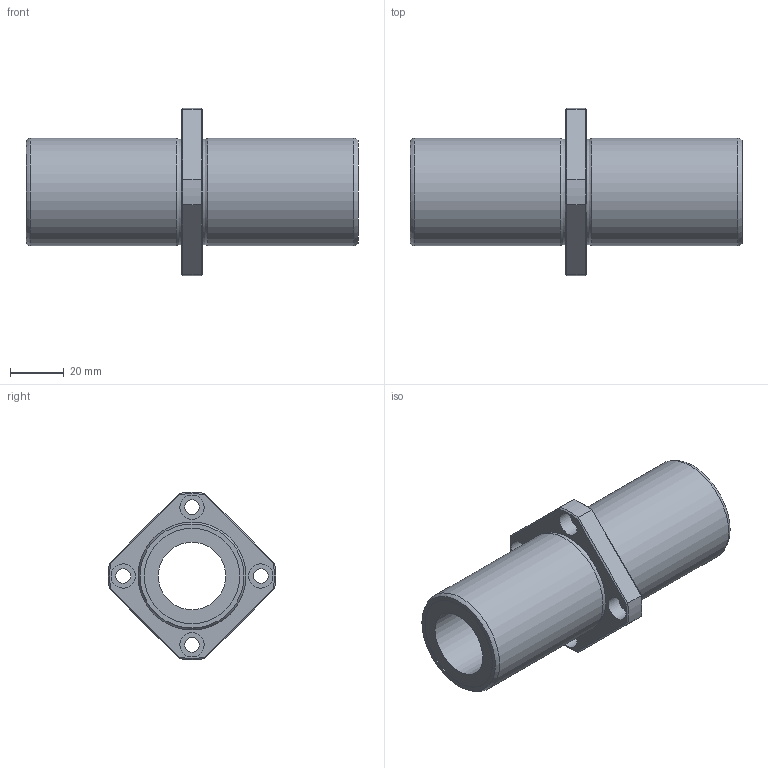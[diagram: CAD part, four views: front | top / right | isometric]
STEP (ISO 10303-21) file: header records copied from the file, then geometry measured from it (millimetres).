
FILE_DESCRIPTION((''),'2;1');
FILE_NAME('D:\製品 (図面)\カタログ用3D\メンテナンスフリー関連\STEP形式\LFDKC-MF\LFDKC25MF.stp','2010-06-01T15:42:43',('Tsuchiya'),(''),'Autodesk Inventor 10','Autodesk Inventor 10','');
FILE_SCHEMA(('AUTOMOTIVE_DESIGN { 1 0 10303 214 1 1 1 1 }'));
Length unit declared in the file: millimetre
Products named in the file (1): LFDKC25MF
Bounding box: 123 x 61.92 x 61.92 mm (x, y, z)
Volume: 101458.7 mm3; surface area: 29927.2 mm2
Topology: 1 solids, 1 shells, 51 faces, 103 edges, 62 vertices
Faces by surface type: plane 22, cylinder 17, cone 8, torus 2, bspline 2
Full cylindrical faces by diameter (mm): 5.5 x4, 9 x4, 25 x1, 35.3 x2, 40 x2
Entity records: 1413 total; most frequent: CARTESIAN_POINT 372, DIRECTION 216, ORIENTED_EDGE 172, AXIS2_PLACEMENT_3D 96, EDGE_CURVE 86, EDGE_LOOP 86, VERTEX_POINT 62, FACE_OUTER_BOUND 51
